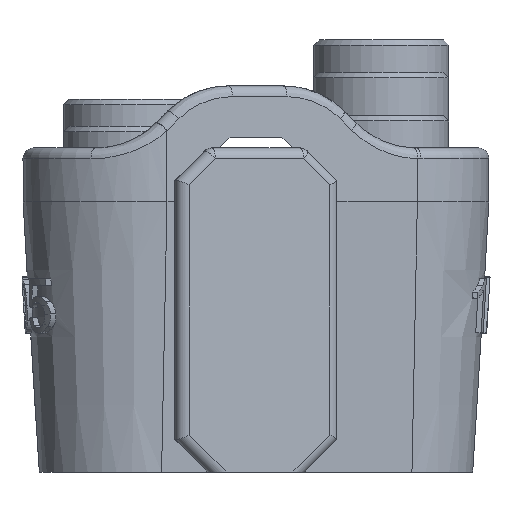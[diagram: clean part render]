
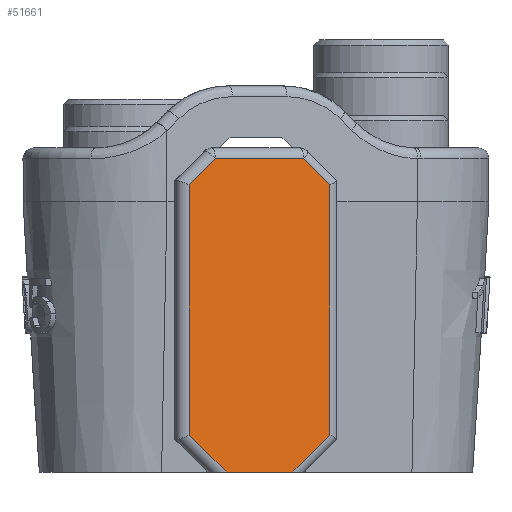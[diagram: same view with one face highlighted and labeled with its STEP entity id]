
A CAD part, left-side view. The second image highlights one B-rep face of the part: STEP entity #51661.
In plain terms, the highlighted planar face has unit normal (-0.942, -0.335, 0).
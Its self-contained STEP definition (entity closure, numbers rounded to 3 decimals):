
#5610=PLANE('',#55040);
#6866=FACE_OUTER_BOUND('',#10061,.T.);
#10061=EDGE_LOOP('',(#35171,#35172,#35173,#35174,#35175,#35176,#35177,#35178));
#13338=LINE('',#66777,#17301);
#13356=LINE('',#66858,#17319);
#13357=LINE('',#66860,#17320);
#13358=LINE('',#66862,#17321);
#13359=LINE('',#66864,#17322);
#13360=LINE('',#66866,#17323);
#13361=LINE('',#66868,#17324);
#13362=LINE('',#66869,#17325);
#17301=VECTOR('',#57701,10.);
#17319=VECTOR('',#57799,10.);
#17320=VECTOR('',#57800,10.);
#17321=VECTOR('',#57801,10.);
#17322=VECTOR('',#57802,10.);
#17323=VECTOR('',#57803,10.);
#17324=VECTOR('',#57804,10.);
#17325=VECTOR('',#57805,10.);
#21778=VERTEX_POINT('',#66774);
#21779=VERTEX_POINT('',#66776);
#21802=VERTEX_POINT('',#66857);
#21803=VERTEX_POINT('',#66859);
#21804=VERTEX_POINT('',#66861);
#21805=VERTEX_POINT('',#66863);
#21806=VERTEX_POINT('',#66865);
#21807=VERTEX_POINT('',#66867);
#26849=EDGE_CURVE('',#21778,#21779,#13338,.T.);
#26890=EDGE_CURVE('',#21802,#21778,#13356,.T.);
#26891=EDGE_CURVE('',#21803,#21802,#13357,.T.);
#26892=EDGE_CURVE('',#21804,#21803,#13358,.T.);
#26893=EDGE_CURVE('',#21805,#21804,#13359,.T.);
#26894=EDGE_CURVE('',#21806,#21805,#13360,.T.);
#26895=EDGE_CURVE('',#21807,#21806,#13361,.T.);
#26896=EDGE_CURVE('',#21779,#21807,#13362,.T.);
#35171=ORIENTED_EDGE('',*,*,#26849,.F.);
#35172=ORIENTED_EDGE('',*,*,#26890,.F.);
#35173=ORIENTED_EDGE('',*,*,#26891,.F.);
#35174=ORIENTED_EDGE('',*,*,#26892,.F.);
#35175=ORIENTED_EDGE('',*,*,#26893,.F.);
#35176=ORIENTED_EDGE('',*,*,#26894,.F.);
#35177=ORIENTED_EDGE('',*,*,#26895,.F.);
#35178=ORIENTED_EDGE('',*,*,#26896,.F.);
#51661=ADVANCED_FACE('',(#6866),#5610,.T.);
#55040=AXIS2_PLACEMENT_3D('',#66856,#57797,#57798);
#57701=DIRECTION('',(0.335,-0.942,0.));
#57797=DIRECTION('center_axis',(-0.942,-0.335,0.));
#57798=DIRECTION('ref_axis',(-0.335,0.942,0.));
#57799=DIRECTION('',(0.244,-0.686,0.686));
#57800=DIRECTION('',(0.,0.,1.));
#57801=DIRECTION('',(-0.244,0.686,0.686));
#57802=DIRECTION('',(-0.335,0.942,0.));
#57803=DIRECTION('',(-0.244,0.686,-0.686));
#57804=DIRECTION('',(0.,0.,-1.));
#57805=DIRECTION('',(0.244,-0.686,-0.686));
#66774=CARTESIAN_POINT('',(47.746,-7.837,16.5));
#66776=CARTESIAN_POINT('',(50.654,-16.009,16.5));
#66777=CARTESIAN_POINT('',(58.862,-39.07,16.5));
#66856=CARTESIAN_POINT('Origin',(51.75,-19.088,17.5));
#66857=CARTESIAN_POINT('',(46.887,-5.423,14.086));
#66858=CARTESIAN_POINT('',(50.764,-16.318,24.981));
#66859=CARTESIAN_POINT('',(46.887,-5.423,-9.086));
#66860=CARTESIAN_POINT('',(46.887,-5.423,17.5));
#66861=CARTESIAN_POINT('',(48.102,-8.837,-12.5));
#66862=CARTESIAN_POINT('',(48.254,-9.264,-12.927));
#66863=CARTESIAN_POINT('',(50.298,-15.009,-12.5));
#66864=CARTESIAN_POINT('',(46.411,-4.088,-12.5));
#66865=CARTESIAN_POINT('',(51.514,-18.423,-9.086));
#66866=CARTESIAN_POINT('',(55.69,-30.156,2.648));
#66867=CARTESIAN_POINT('',(51.514,-18.423,14.086));
#66868=CARTESIAN_POINT('',(51.514,-18.423,17.5));
#66869=CARTESIAN_POINT('',(53.179,-23.103,9.406));
